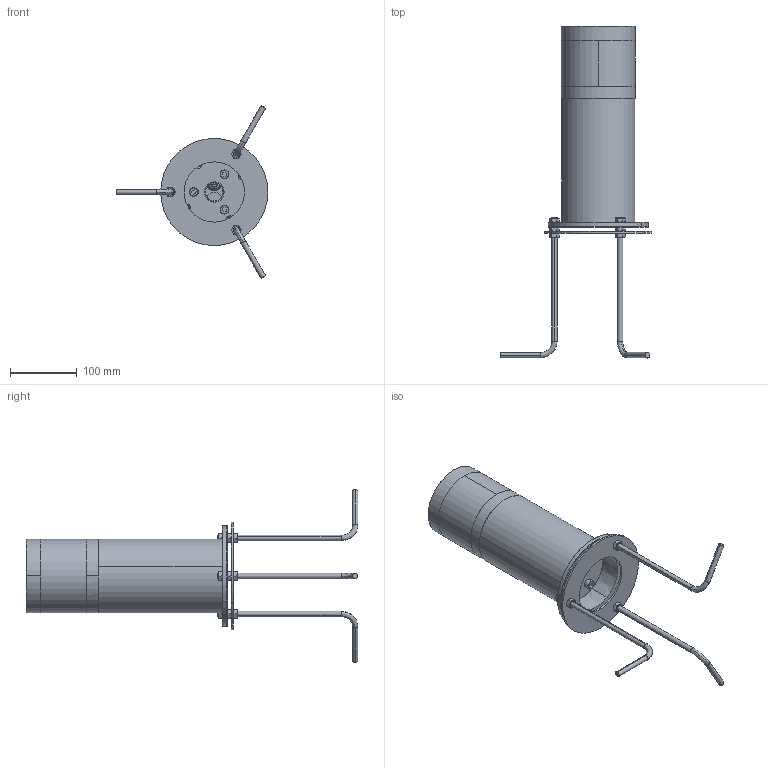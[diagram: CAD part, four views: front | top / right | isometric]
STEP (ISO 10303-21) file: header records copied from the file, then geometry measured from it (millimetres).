
FILE_DESCRIPTION((''),'2;1');
FILE_NAME('9EF-300_ASM','2024-09-20T',('C028'),(''),'CREO PARAMETRIC BY PTC INC, 2014190','CREO PARAMETRIC BY PTC INC, 2014190','');
FILE_SCHEMA(('CONFIG_CONTROL_DESIGN'));
Products named in the file (29): SHI_ZHI_GAI_555; TOU_MING_ZHAO_15; XIN_SHANG_GAI_75; LED_DENG_BAN_5; XIN_FANG_SHUI_QUAN_10; 9EF_TOU_GUANG_ZHAO_30; SHANG_GAI_ZU_ASM_44_ASM; 9AB-03DUDINGZUOHOUGAI_1_10; PAD_312_1_1; FANGUANGSAI-1_312_1_4; FANGSHUISAI_312_1_1; PG9_ASM_315_ASM_1_ASM_3_ASM; LI_BAN-24; M18; ZU_ZHUANG_TU_ASM_225_ASM; 9AD-07_300_1_35; LI_BAN; GUANZI_1; 12-ZHUANGJIEGGAI_3; 6-23; DICHA14A_ASM_1_ASM; 9AB_FA_LAN_PAN_56; M8-30; YUAN_GUAN-300_ASM; 9AB-11_4__ANY_; M8LUOMU_3__ANY_; 9AB-10_5__ANY_; 9ABDIZUO_AF5_ASM_333_ASM_1_ANY__ASM; 9EF-300_ASM
Assembly tree (40 placements, depth 4):
  9EF-300_ASM
    ZU_ZHUANG_TU_ASM_225_ASM
      SHI_ZHI_GAI_555
      TOU_MING_ZHAO_15
      SHANG_GAI_ZU_ASM_44_ASM
        XIN_SHANG_GAI_75
        LED_DENG_BAN_5
        XIN_FANG_SHUI_QUAN_10
        9EF_TOU_GUANG_ZHAO_30
      9AB-03DUDINGZUOHOUGAI_1_10
      PG9_ASM_315_ASM_1_ASM_3_ASM
        PAD_312_1_1
        FANGUANGSAI-1_312_1_4
        FANGSHUISAI_312_1_1
      LI_BAN-24
      M18
    YUAN_GUAN-300_ASM
      9AD-07_300_1_35
      LI_BAN
      DICHA14A_ASM_1_ASM
        GUANZI_1
        12-ZHUANGJIEGGAI_3
        6-23
      9AB_FA_LAN_PAN_56
      M8-30  x3
    9ABDIZUO_AF5_ASM_333_ASM_1_ANY__ASM
      9AB-11_4__ANY_  x3
      M8LUOMU_3__ANY_  x9
      9AB-10_5__ANY_
Bounding box: 226.5 x 495.35 x 257.75 mm (x, y, z)
Volume: 966714.1 mm3; surface area: 548403.6 mm2
Topology: 34 solids, 34 shells, 4115 faces, 12200 edges, 6941 vertices
Faces by surface type: sphere 1394, plane 1248, cylinder 752, cone 340, torus 213, bspline 168
Entity records: 144941 total; most frequent: CARTESIAN_POINT 51957, ORIENTED_EDGE 20696, DIRECTION 18048, EDGE_CURVE 10348, AXIS2_PLACEMENT_3D 7396, VERTEX_POINT 6617, EDGE_LOOP 4077, FACE_OUTER_BOUND 3859
